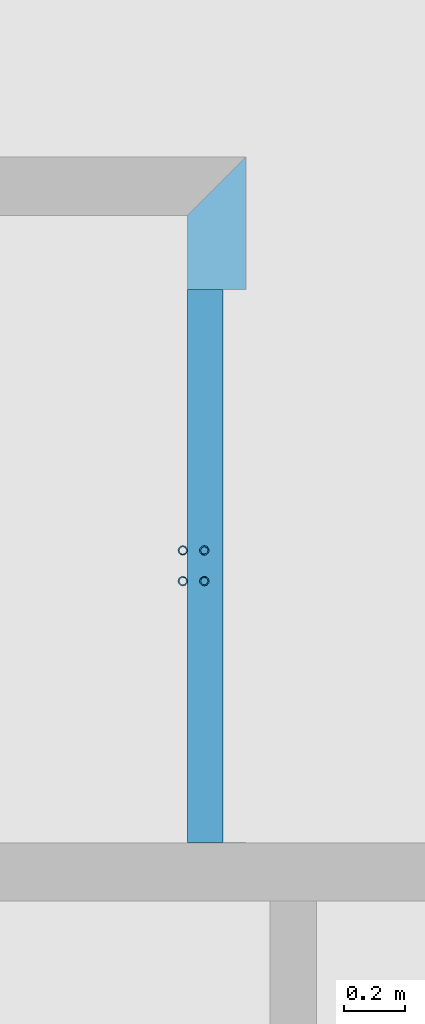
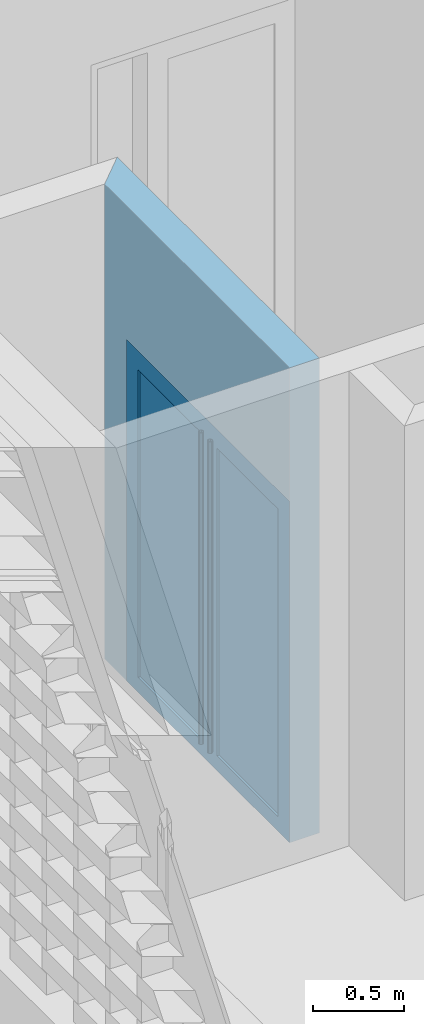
# One storey, part 29 of 62: 2 building element parts, 1 opening, 1 element without a shape of its own, plus 1 element that does not belong to this part.
"""IFC2X3 building model written with IfcOpenShell, lengths in millimetres."""

from ifc_helpers import new_model, entity, si_unit, converted_unit, derived_unit, money_unit, direction, frame, origin_with_axes, origin_2d_with_axis, place, context, subcontext, project, spatial, polyline, rectangle, outline, extrude, open_shell, faceted_brep, surface_model, material, layer, layer_set, layer_usage, type_object, element, fill, aggregate, save


model = new_model("IFC2X3")

# Units and contexts
model_context = context("Model", 3, precision=0.01, world=origin_with_axes(), true_north=direction((0.0, 1.0)))
body_context = subcontext(model_context, "Body", "Model", "MODEL_VIEW")
ifc_project = project(units=[si_unit("LENGTHUNIT", "METRE", prefix="MILLI"), si_unit("AREAUNIT", "SQUARE_METRE"), si_unit("VOLUMEUNIT", "CUBIC_METRE"), converted_unit("PLANEANGLEUNIT", "DEGREE", entity("IfcPlaneAngleMeasure", 0.0174532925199), si_unit("PLANEANGLEUNIT", "RADIAN"), dimensions=[0, 0, 0, 0, 0, 0, 0]), si_unit("SOLIDANGLEUNIT", "STERADIAN"), money_unit("EUR"), converted_unit("TIMEUNIT", "Year", entity("IfcTimeMeasure", 31556926.0), si_unit("TIMEUNIT", "SECOND"), dimensions=[0, 0, 1, 0, 0, 0, 0]), si_unit("MASSUNIT", "GRAM", prefix="KILO"), si_unit("THERMODYNAMICTEMPERATUREUNIT", "DEGREE_CELSIUS"), si_unit("LUMINOUSINTENSITYUNIT", "LUMEN"), si_unit("ENERGYUNIT", "JOULE", prefix="MEGA"), derived_unit("THERMALCONDUCTANCEUNIT", [(si_unit("POWERUNIT", "WATT"), 1), (si_unit("LENGTHUNIT", "METRE"), -1), (si_unit("THERMODYNAMICTEMPERATUREUNIT", "KELVIN"), -1)]), derived_unit("SPECIFICHEATCAPACITYUNIT", [(si_unit("ENERGYUNIT", "JOULE"), 1), (si_unit("MASSUNIT", "GRAM", prefix="KILO"), -1), (si_unit("THERMODYNAMICTEMPERATUREUNIT", "KELVIN"), -1)]), derived_unit("MASSDENSITYUNIT", [(si_unit("MASSUNIT", "GRAM", prefix="KILO"), 1), (si_unit("VOLUMEUNIT", "CUBIC_METRE"), -1)])], contexts=[model_context])

# Site, building, storey
site_placement = place(None, origin_with_axes())
site = spatial("IfcSite", under=ifc_project, at=site_placement, Name="KIRDE 14, ELVA", CompositionType="ELEMENT")
building_placement = place(site_placement, origin_with_axes())
building = spatial("IfcBuilding", under=site, at=building_placement, Name="PPA ja Päästeameti ühishoone", CompositionType="ELEMENT")
storey_placement = place(building_placement, origin_with_axes())
storey = spatial("IfcBuildingStorey", under=building, at=storey_placement, Name="Esimene korrus", CompositionType="ELEMENT", Elevation=0.0)

# Wall, opening, door, building element parts
ifc_material_1 = material(Name="COLUMBIA KIVI (BETONEERITUD)")
ifc_layer = layer(ifc_material_1, 190.0, ventilated="UNKNOWN")
ifc_layer_set = layer_set([ifc_layer], Name="SS-02")
ifc_layer_usage = layer_usage(ifc_layer_set, "AXIS2", "NEGATIVE", 190.0)
wall_type = type_object("IfcWallType", Name="SS-02 190", PredefinedType="USERDEFINED")
wall_placement = place(storey_placement, frame((2990.00020034, 8978.47485216, 0.0), z_axis=(0.0, 0.0, 1.0), x_axis=(-8.88777336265e-09, 1.0, 0.0)))
wall = element("IfcWallStandardCase", 1, at=wall_placement, inside=storey, type_object=wall_type, material=ifc_layer_usage, Name="SS-02", ObjectType="PARTITIONING", context=body_context, shape_type="SweptSolid", body=[
    extrude(outline(polyline([(190.0, 0.0), (2421.9218494, 0.0), (2231.92185109, 190.0), (190.000001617, 190.0), (190.0, 0.0)])), origin_with_axes(), (0.0, 0.0, 1.0), 3200.0),
])
opening_placement = place(wall_placement, frame((1091.92175982, 0.0, 0.0), z_axis=(0.0, 0.0, 1.0), x_axis=(1.0, 0.0, 0.0)))
opening = element("IfcOpeningElement", 2, at=opening_placement, cuts=wall, Name="SU-01", context=body_context, shape_type="SweptSolid", body=[
    extrude(rectangle(XDim=1800.0, YDim=2300.0, at=origin_2d_with_axis()), frame((-1.68867764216e-06, -190.0, 1150.0), z_axis=(-8.88777336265e-09, -1.0, 0.0), x_axis=(-1.0, 8.88777342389e-09, 0.0)), (0.0, 0.0, -1.0), 570.0),
])
door_style = type_object("IfcDoorStyle", Name="Double Door 24", ConstructionType="NOTDEFINED", OperationType="DOUBLE_DOOR_SINGLE_SWING", ParameterTakesPrecedence=False, Sizeable=False)
door_placement = place(opening_placement, frame((-900.0, 0.0, 0.0), z_axis=(0.0, 0.0, 1.0), x_axis=(1.0, 0.0, 0.0)))
door = element("IfcDoor", 3, at=door_placement, inside=storey, type_object=door_style, Name="SU-01", ObjectType="DOOR", OverallHeight=2300.0, OverallWidth=1800.0)
fill(opening, door)
building_element_part_1_placement = place(door_placement, origin_with_axes())
building_element_part_1 = element("IfcBuildingElementPart", 4, at=building_element_part_1_placement, context=body_context, shape_type="SurfaceModel", body=[
    faceted_brep([(28.0000013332, 149.999998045, 0.0), (40.0000013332, 149.999997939, 0.0), (40.0000013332, 149.999997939, 12.0), (28.0000013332, 149.999998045, 12.0), (1772.00000133, 149.999982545, 0.0), (1760.00000133, 149.999982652, 0.0), (1760.00000067, 74.9999826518, 0.0), (40.0000006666, 74.9999979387, 0.0), (40.0000006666, 74.9999979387, 12.0), (1760.00000067, 74.9999826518, 12.0), (1760.00000133, 149.999982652, 12.0), (1772.00000133, 149.999982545, 12.0)], [[[0, 1, 2, 3]], [[0, 4, 5, 6, 7, 1]], [[1, 7, 8, 2]], [[3, 2, 8, 9, 10, 11]], [[4, 0, 3, 11]], [[5, 4, 11, 10]], [[6, 5, 10, 9]], [[7, 6, 9, 8]]]),
    faceted_brep([(1760.00000133, 149.999982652, 0.0), (1760.00000067, 74.9999826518, 0.0), (1760.00000067, 74.9999826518, 2260.0), (1760.00000133, 149.999982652, 2260.0), (1772.00000133, 149.999982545, 0.0), (1772.00000169, 189.999982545, 0.0), (1800.00000169, 189.999982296, 0.0), (1800.00000067, 74.9999822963, 0.0), (1800.00000067, 74.9999822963, 2260.0), (1772.00000133, 149.999982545, 2260.0), (1800.00000169, 189.999982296, 2260.0), (1772.00000169, 189.999982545, 2260.0)], [[[0, 1, 2, 3]], [[4, 5, 6, 7, 1, 0]], [[1, 7, 8, 2]], [[9, 3, 2, 8, 10, 11]], [[9, 4, 0, 3]], [[11, 5, 4, 9]], [[11, 10, 6, 5]], [[6, 10, 8, 7]]]),
    faceted_brep([(28.0000013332, 149.999998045, 2260.0), (28.0000016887, 189.999998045, 2260.0), (1.68867764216e-06, 189.999998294, 2260.0), (6.66583233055e-07, 74.9999982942, 2260.0), (40.0000006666, 74.9999979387, 2260.0), (40.0000013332, 149.999997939, 2260.0), (28.0000013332, 149.999998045, 0.0), (28.0000016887, 189.999998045, 0.0), (1.68867764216e-06, 189.999998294, 0.0), (6.66583233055e-07, 74.9999982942, 0.0), (40.0000006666, 74.9999979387, 0.0), (40.0000013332, 149.999997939, 0.0)], [[[0, 1, 2, 3, 4, 5]], [[0, 6, 7, 1]], [[7, 8, 2, 1]], [[2, 8, 9, 3]], [[3, 9, 10, 4]], [[5, 4, 10, 11]], [[5, 11, 6, 0]], [[6, 11, 10, 9, 8, 7]]]),
    faceted_brep([(1772.00000169, 189.999982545, 2272.0), (28.0000016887, 189.999998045, 2272.0), (28.0000016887, 189.999998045, 2260.0), (1.68867764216e-06, 189.999998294, 2260.0), (1.68867764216e-06, 189.999998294, 2300.0), (1800.00000169, 189.999982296, 2300.0), (1800.00000169, 189.999982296, 2260.0), (1772.00000169, 189.999982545, 2260.0), (1772.00000133, 149.999982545, 2272.0), (28.0000013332, 149.999998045, 2272.0), (28.0000013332, 149.999998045, 2260.0), (40.0000013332, 149.999997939, 2260.0), (40.0000006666, 74.9999979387, 2260.0), (6.66583233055e-07, 74.9999982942, 2260.0), (6.66583233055e-07, 74.9999982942, 2300.0), (1800.00000067, 74.9999822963, 2300.0), (1800.00000067, 74.9999822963, 2260.0), (1772.00000133, 149.999982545, 2260.0), (1760.00000067, 74.9999826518, 2260.0), (1760.00000133, 149.999982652, 2260.0)], [[[0, 1, 2, 3, 4, 5, 6, 7]], [[0, 8, 9, 1]], [[1, 9, 10, 2]], [[10, 11, 12, 13, 3, 2]], [[4, 3, 13, 14]], [[5, 4, 14, 15]], [[6, 5, 15, 16]], [[17, 7, 6, 16, 18, 19]], [[7, 17, 8, 0]], [[10, 9, 8, 17, 19, 11]], [[19, 18, 12, 11]], [[12, 18, 16, 15, 14, 13]]]),
    faceted_brep([(28.0000016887, 189.999998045, 100.0), (128.000001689, 189.999997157, 100.0), (128.000001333, 149.999997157, 100.0), (28.0000013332, 149.999998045, 100.0), (28.0000016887, 189.999998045, 2172.0), (128.000001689, 189.999997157, 2172.0), (128.000001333, 149.999997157, 2172.0), (28.0000013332, 149.999998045, 2172.0)], [[[0, 1, 2, 3]], [[0, 4, 5, 1]], [[1, 5, 6, 2]], [[3, 2, 6, 7]], [[4, 0, 3, 7]], [[5, 4, 7, 6]]]),
    faceted_brep([(900.000001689, 189.999990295, 100.0), (900.000001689, 189.999990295, 2172.0), (900.000001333, 149.999990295, 2172.0), (900.000001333, 149.999990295, 100.0), (800.000001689, 189.999991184, 100.0), (800.000001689, 189.999991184, 2172.0), (800.000001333, 149.999991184, 2172.0), (800.000001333, 149.999991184, 100.0)], [[[0, 1, 2, 3]], [[0, 4, 5, 1]], [[1, 5, 6, 2]], [[3, 2, 6, 7]], [[4, 0, 3, 7]], [[5, 4, 7, 6]]]),
    faceted_brep([(28.0000016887, 189.999998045, 0.0), (900.000001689, 189.999990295, 0.0), (900.000001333, 149.999990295, 0.0), (28.0000013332, 149.999998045, 0.0), (28.0000016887, 189.999998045, 100.0), (128.000001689, 189.999997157, 100.0), (800.000001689, 189.999991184, 100.0), (900.000001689, 189.999990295, 100.0), (900.000001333, 149.999990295, 100.0), (800.000001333, 149.999991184, 100.0), (128.000001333, 149.999997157, 100.0), (28.0000013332, 149.999998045, 100.0)], [[[0, 1, 2, 3]], [[0, 4, 5, 6, 7, 1]], [[1, 7, 8, 2]], [[3, 2, 8, 9, 10, 11]], [[4, 0, 3, 11]], [[5, 4, 11, 10]], [[6, 5, 10, 9]], [[7, 6, 9, 8]]]),
    faceted_brep([(28.0000016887, 189.999998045, 2272.0), (28.0000016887, 189.999998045, 2172.0), (28.0000013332, 149.999998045, 2172.0), (28.0000013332, 149.999998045, 2272.0), (900.000001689, 189.999990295, 2272.0), (900.000001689, 189.999990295, 2172.0), (800.000001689, 189.999991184, 2172.0), (128.000001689, 189.999997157, 2172.0), (128.000001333, 149.999997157, 2172.0), (800.000001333, 149.999991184, 2172.0), (900.000001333, 149.999990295, 2172.0), (900.000001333, 149.999990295, 2272.0)], [[[0, 1, 2, 3]], [[0, 4, 5, 6, 7, 1]], [[1, 7, 8, 2]], [[3, 2, 8, 9, 10, 11]], [[4, 0, 3, 11]], [[5, 4, 11, 10]], [[6, 5, 10, 9]], [[7, 6, 9, 8]]]),
    surface_model("IfcShellBasedSurfaceModel", [(128.000001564, 175.999997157, 100.0), (128.000001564, 175.999997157, 2172.0), (800.000001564, 175.999991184, 2172.0), (800.000001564, 175.999991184, 100.0)], [open_shell([[[0, 1, 2, 3]]])]),
    surface_model("IfcShellBasedSurfaceModel", [(128.000001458, 163.999997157, 100.0), (800.000001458, 163.999991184, 100.0), (800.000001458, 163.999991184, 2172.0), (128.000001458, 163.999997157, 2172.0)], [open_shell([[[0, 1, 2, 3]]])]),
    faceted_brep([(1772.00000169, 189.999982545, 100.0), (1772.00000133, 149.999982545, 100.0), (1672.00000133, 149.999983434, 100.0), (1672.00000169, 189.999983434, 100.0), (1772.00000169, 189.999982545, 2172.0), (1772.00000133, 149.999982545, 2172.0), (1672.00000133, 149.999983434, 2172.0), (1672.00000169, 189.999983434, 2172.0)], [[[0, 1, 2, 3]], [[4, 5, 1, 0]], [[1, 5, 6, 2]], [[3, 2, 6, 7]], [[0, 3, 7, 4]], [[7, 6, 5, 4]]]),
    faceted_brep([(900.000001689, 189.999990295, 100.0), (900.000001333, 149.999990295, 100.0), (900.000001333, 149.999990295, 2172.0), (900.000001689, 189.999990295, 2172.0), (1000.00000169, 189.999989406, 100.0), (1000.00000133, 149.999989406, 100.0), (1000.00000133, 149.999989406, 2172.0), (1000.00000169, 189.999989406, 2172.0)], [[[0, 1, 2, 3]], [[4, 5, 1, 0]], [[1, 5, 6, 2]], [[3, 2, 6, 7]], [[0, 3, 7, 4]], [[7, 6, 5, 4]]]),
    faceted_brep([(1772.00000169, 189.999982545, 0.0), (1772.00000133, 149.999982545, 0.0), (900.000001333, 149.999990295, 0.0), (900.000001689, 189.999990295, 0.0), (1772.00000169, 189.999982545, 100.0), (1772.00000133, 149.999982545, 100.0), (1672.00000133, 149.999983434, 100.0), (1000.00000133, 149.999989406, 100.0), (900.000001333, 149.999990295, 100.0), (900.000001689, 189.999990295, 100.0), (1000.00000169, 189.999989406, 100.0), (1672.00000169, 189.999983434, 100.0)], [[[0, 1, 2, 3]], [[4, 5, 1, 0]], [[1, 5, 6, 7, 8, 2]], [[3, 2, 8, 9]], [[0, 3, 9, 10, 11, 4]], [[11, 6, 5, 4]], [[10, 7, 6, 11]], [[9, 8, 7, 10]]]),
    faceted_brep([(1772.00000169, 189.999982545, 2272.0), (1772.00000133, 149.999982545, 2272.0), (1772.00000133, 149.999982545, 2172.0), (1772.00000169, 189.999982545, 2172.0), (900.000001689, 189.999990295, 2272.0), (900.000001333, 149.999990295, 2272.0), (900.000001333, 149.999990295, 2172.0), (1000.00000133, 149.999989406, 2172.0), (1672.00000133, 149.999983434, 2172.0), (1672.00000169, 189.999983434, 2172.0), (1000.00000169, 189.999989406, 2172.0), (900.000001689, 189.999990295, 2172.0)], [[[0, 1, 2, 3]], [[4, 5, 1, 0]], [[1, 5, 6, 7, 8, 2]], [[3, 2, 8, 9]], [[0, 3, 9, 10, 11, 4]], [[11, 6, 5, 4]], [[10, 7, 6, 11]], [[9, 8, 7, 10]]]),
    surface_model("IfcShellBasedSurfaceModel", [(1672.00000156, 175.999983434, 100.0), (1000.00000156, 175.999989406, 100.0), (1000.00000156, 175.999989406, 2172.0), (1672.00000156, 175.999983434, 2172.0)], [open_shell([[[0, 1, 2, 3]]])]),
    surface_model("IfcShellBasedSurfaceModel", [(1672.00000146, 163.999983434, 100.0), (1672.00000146, 163.999983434, 2172.0), (1000.00000146, 163.999989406, 2172.0), (1000.00000146, 163.999989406, 100.0)], [open_shell([[[0, 1, 2, 3]]])]),
])
ifc_material_2 = material(Name="Fire Proofing")
building_element_part_2_placement = place(door_placement, origin_with_axes())
building_element_part_2 = element("IfcBuildingElementPart", 5, at=building_element_part_2_placement, material=ifc_material_2, Name="Fire Proofing", context=body_context, shape_type="Brep", body=[
    faceted_brep([(865.0000012, 134.999990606, 2200.0), (865.0000012, 134.999990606, 100.0), (862.990382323, 142.499990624, 100.0), (862.990382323, 142.499990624, 2200.0), (862.99038219, 127.499990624, 2200.0), (862.99038219, 127.499990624, 100.0), (857.500001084, 122.009609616, 100.0), (850.000001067, 119.99999074, 100.0), (842.500001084, 122.00960975, 100.0), (837.009620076, 127.499990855, 100.0), (835.0000012, 134.999990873, 100.0), (837.00962021, 142.499990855, 100.0), (842.500001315, 147.990371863, 100.0), (850.000001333, 149.99999074, 100.0), (857.500001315, 147.99037173, 100.0), (862.927179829, 134.999990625, 100.0), (859.140896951, 144.140886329, 100.0), (850.000001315, 147.927169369, 100.0), (840.859105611, 144.140886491, 100.0), (837.072822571, 134.999990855, 100.0), (840.859105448, 125.859095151, 100.0), (850.000001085, 122.07281211, 100.0), (859.140896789, 125.859094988, 100.0), (857.500001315, 147.99037173, 2200.0), (850.000001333, 149.99999074, 2200.0), (842.500001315, 147.990371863, 2200.0), (837.00962021, 142.499990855, 2200.0), (835.0000012, 134.999990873, 2200.0), (837.009620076, 127.499990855, 2200.0), (842.500001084, 122.00960975, 2200.0), (850.000001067, 119.99999074, 2200.0), (857.500001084, 122.009609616, 2200.0), (862.927179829, 134.999990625, 2200.0), (859.140896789, 125.859094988, 2200.0), (850.000001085, 122.07281211, 2200.0), (840.859105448, 125.859095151, 2200.0), (837.072822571, 134.999990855, 2200.0), (840.859105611, 144.140886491, 2200.0), (850.000001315, 147.927169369, 2200.0), (859.140896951, 144.140886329, 2200.0)], [[[0, 1, 2, 3]], [[4, 5, 1, 0]], [[1, 5, 6, 7, 8, 9, 10, 11, 12, 13, 14, 2], [15, 16, 17, 18, 19, 20, 21, 22]], [[3, 2, 14, 23]], [[0, 3, 23, 24, 25, 26, 27, 28, 29, 30, 31, 4], [32, 33, 34, 35, 36, 37, 38, 39]], [[31, 6, 5, 4]], [[30, 7, 6, 31]], [[29, 8, 7, 30]], [[28, 9, 8, 29]], [[27, 10, 9, 28]], [[26, 11, 10, 27]], [[25, 12, 11, 26]], [[24, 13, 12, 25]], [[23, 14, 13, 24]], [[39, 16, 15, 32]], [[38, 17, 16, 39]], [[37, 18, 17, 38]], [[36, 19, 18, 37]], [[35, 20, 19, 36]], [[34, 21, 20, 35]], [[33, 22, 21, 34]], [[32, 15, 22, 33]]]),
    faceted_brep([(865.000001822, 204.999990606, 2200.0), (862.990382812, 197.499990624, 2200.0), (862.990382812, 197.499990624, 100.0), (865.000001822, 204.999990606, 100.0), (862.990382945, 212.499990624, 2200.0), (857.500001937, 217.99037173, 2200.0), (850.000001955, 219.99999074, 2200.0), (842.500001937, 217.990371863, 2200.0), (837.009620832, 212.499990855, 2200.0), (835.000001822, 204.999990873, 2200.0), (837.009620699, 197.499990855, 2200.0), (842.500001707, 192.00960975, 2200.0), (850.000001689, 189.99999074, 2200.0), (857.500001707, 192.009609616, 2200.0), (862.927180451, 204.999990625, 2200.0), (859.140897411, 195.859094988, 2200.0), (850.000001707, 192.07281211, 2200.0), (840.85910607, 195.859095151, 2200.0), (837.072823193, 204.999990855, 2200.0), (840.859106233, 214.140886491, 2200.0), (850.000001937, 217.927169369, 2200.0), (859.140897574, 214.140886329, 2200.0), (857.500001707, 192.009609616, 100.0), (850.000001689, 189.99999074, 100.0), (842.500001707, 192.00960975, 100.0), (837.009620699, 197.499990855, 100.0), (835.000001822, 204.999990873, 100.0), (837.009620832, 212.499990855, 100.0), (842.500001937, 217.990371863, 100.0), (850.000001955, 219.99999074, 100.0), (857.500001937, 217.99037173, 100.0), (862.990382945, 212.499990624, 100.0), (862.927180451, 204.999990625, 100.0), (859.140897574, 214.140886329, 100.0), (850.000001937, 217.927169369, 100.0), (840.859106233, 214.140886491, 100.0), (837.072823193, 204.999990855, 100.0), (840.85910607, 195.859095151, 100.0), (850.000001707, 192.07281211, 100.0), (859.140897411, 195.859094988, 100.0)], [[[0, 1, 2, 3]], [[0, 4, 5, 6, 7, 8, 9, 10, 11, 12, 13, 1], [14, 15, 16, 17, 18, 19, 20, 21]], [[1, 13, 22, 2]], [[3, 2, 22, 23, 24, 25, 26, 27, 28, 29, 30, 31], [32, 33, 34, 35, 36, 37, 38, 39]], [[4, 0, 3, 31]], [[5, 4, 31, 30]], [[6, 5, 30, 29]], [[7, 6, 29, 28]], [[8, 7, 28, 27]], [[9, 8, 27, 26]], [[10, 9, 26, 25]], [[11, 10, 25, 24]], [[12, 11, 24, 23]], [[13, 12, 23, 22]], [[15, 14, 32, 39]], [[16, 15, 39, 38]], [[17, 16, 38, 37]], [[18, 17, 37, 36]], [[19, 18, 36, 35]], [[20, 19, 35, 34]], [[21, 20, 34, 33]], [[14, 21, 33, 32]]]),
    faceted_brep([(935.0000012, 134.999989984, 2200.0), (937.00962021, 142.499989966, 2200.0), (937.00962021, 142.499989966, 100.0), (935.0000012, 134.999989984, 100.0), (937.009620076, 127.499989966, 2200.0), (942.500001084, 122.009608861, 2200.0), (950.000001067, 119.999989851, 2200.0), (957.500001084, 122.009608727, 2200.0), (962.99038219, 127.499989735, 2200.0), (965.0000012, 134.999989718, 2200.0), (962.990382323, 142.499989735, 2200.0), (957.500001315, 147.990370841, 2200.0), (950.000001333, 149.999989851, 2200.0), (942.500001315, 147.990370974, 2200.0), (937.072822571, 134.999989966, 2200.0), (940.859105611, 144.140885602, 2200.0), (950.000001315, 147.92716848, 2200.0), (959.140896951, 144.14088544, 2200.0), (962.927179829, 134.999989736, 2200.0), (959.140896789, 125.859094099, 2200.0), (950.000001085, 122.072811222, 2200.0), (940.859105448, 125.859094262, 2200.0), (942.500001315, 147.990370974, 100.0), (950.000001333, 149.999989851, 100.0), (957.500001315, 147.990370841, 100.0), (962.990382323, 142.499989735, 100.0), (965.0000012, 134.999989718, 100.0), (962.99038219, 127.499989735, 100.0), (957.500001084, 122.009608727, 100.0), (950.000001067, 119.999989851, 100.0), (942.500001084, 122.009608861, 100.0), (937.009620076, 127.499989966, 100.0), (937.072822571, 134.999989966, 100.0), (940.859105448, 125.859094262, 100.0), (950.000001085, 122.072811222, 100.0), (959.140896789, 125.859094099, 100.0), (962.927179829, 134.999989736, 100.0), (959.140896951, 144.14088544, 100.0), (950.000001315, 147.92716848, 100.0), (940.859105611, 144.140885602, 100.0)], [[[0, 1, 2, 3]], [[0, 4, 5, 6, 7, 8, 9, 10, 11, 12, 13, 1], [14, 15, 16, 17, 18, 19, 20, 21]], [[1, 13, 22, 2]], [[3, 2, 22, 23, 24, 25, 26, 27, 28, 29, 30, 31], [32, 33, 34, 35, 36, 37, 38, 39]], [[4, 0, 3, 31]], [[5, 4, 31, 30]], [[6, 5, 30, 29]], [[7, 6, 29, 28]], [[8, 7, 28, 27]], [[9, 8, 27, 26]], [[10, 9, 26, 25]], [[11, 10, 25, 24]], [[12, 11, 24, 23]], [[13, 12, 23, 22]], [[15, 14, 32, 39]], [[16, 15, 39, 38]], [[17, 16, 38, 37]], [[18, 17, 37, 36]], [[19, 18, 36, 35]], [[20, 19, 35, 34]], [[21, 20, 34, 33]], [[14, 21, 33, 32]]]),
    faceted_brep([(935.000001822, 204.999989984, 2200.0), (935.000001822, 204.999989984, 100.0), (937.009620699, 197.499989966, 100.0), (937.009620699, 197.499989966, 2200.0), (937.009620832, 212.499989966, 2200.0), (937.009620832, 212.499989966, 100.0), (942.500001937, 217.990370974, 100.0), (950.000001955, 219.999989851, 100.0), (957.500001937, 217.990370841, 100.0), (962.990382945, 212.499989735, 100.0), (965.000001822, 204.999989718, 100.0), (962.990382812, 197.499989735, 100.0), (957.500001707, 192.009608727, 100.0), (950.000001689, 189.999989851, 100.0), (942.500001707, 192.009608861, 100.0), (937.072823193, 204.999989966, 100.0), (940.85910607, 195.859094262, 100.0), (950.000001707, 192.072811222, 100.0), (959.140897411, 195.859094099, 100.0), (962.927180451, 204.999989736, 100.0), (959.140897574, 214.14088544, 100.0), (950.000001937, 217.92716848, 100.0), (940.859106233, 214.140885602, 100.0), (942.500001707, 192.009608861, 2200.0), (950.000001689, 189.999989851, 2200.0), (957.500001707, 192.009608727, 2200.0), (962.990382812, 197.499989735, 2200.0), (965.000001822, 204.999989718, 2200.0), (962.990382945, 212.499989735, 2200.0), (957.500001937, 217.990370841, 2200.0), (950.000001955, 219.999989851, 2200.0), (942.500001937, 217.990370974, 2200.0), (937.072823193, 204.999989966, 2200.0), (940.859106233, 214.140885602, 2200.0), (950.000001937, 217.92716848, 2200.0), (959.140897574, 214.14088544, 2200.0), (962.927180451, 204.999989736, 2200.0), (959.140897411, 195.859094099, 2200.0), (950.000001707, 192.072811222, 2200.0), (940.85910607, 195.859094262, 2200.0)], [[[0, 1, 2, 3]], [[4, 5, 1, 0]], [[1, 5, 6, 7, 8, 9, 10, 11, 12, 13, 14, 2], [15, 16, 17, 18, 19, 20, 21, 22]], [[3, 2, 14, 23]], [[0, 3, 23, 24, 25, 26, 27, 28, 29, 30, 31, 4], [32, 33, 34, 35, 36, 37, 38, 39]], [[31, 6, 5, 4]], [[30, 7, 6, 31]], [[29, 8, 7, 30]], [[28, 9, 8, 29]], [[27, 10, 9, 28]], [[26, 11, 10, 27]], [[25, 12, 11, 26]], [[24, 13, 12, 25]], [[23, 14, 13, 24]], [[39, 16, 15, 32]], [[38, 17, 16, 39]], [[37, 18, 17, 38]], [[36, 19, 18, 37]], [[35, 20, 19, 36]], [[34, 21, 20, 35]], [[33, 22, 21, 34]], [[32, 15, 22, 33]]]),
])
aggregate(door, [building_element_part_1, building_element_part_2])

save(model, "model.ifc")
